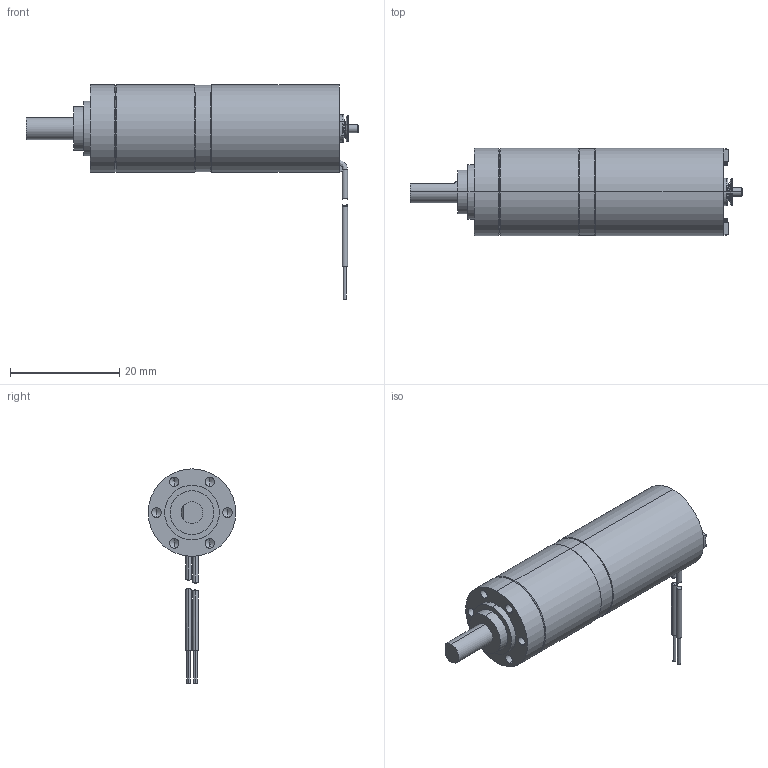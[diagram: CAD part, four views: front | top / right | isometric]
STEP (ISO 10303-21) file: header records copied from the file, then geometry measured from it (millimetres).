
FILE_DESCRIPTION (( 'STEP AP214' ), '1' );
FILE_NAME ('DCX16SG + GP16C-2 étages.STEP', '2014-10-15T13:27:21', ( '' ), ( '' ), 'SwSTEP 2.0', 'SolidWorks 2013', '' );
FILE_SCHEMA (( 'AUTOMOTIVE_DESIGN' ));
Length unit declared in the file: millimetre
Products named in the file (23): 8; 7; 3; 19; 18; 17; 16; 14; 5; 4; 13; 12; GP16C - 2st; 11; DCX16SG; 10; 6; 15; DCX16SG + GP16C-2 étages; 1; 2; 9; 1577440
Assembly tree (22 placements, depth 3):
  DCX16SG + GP16C-2 étages
    DCX16SG
      10
      11
      12
      13
      4
      5
      14
      16
      17
      18
      19
      3
      7
      8
      1577440
      9
      2
      1
      15
      6
    GP16C - 2st
Bounding box: 60.75 x 16 x 39.2 mm (x, y, z)
Volume: 7934 mm3; surface area: 5994.5 mm2
Topology: 21 solids, 21 shells, 1044 faces, 2605 edges, 1657 vertices
Faces by surface type: plane 525, cylinder 297, cone 152, bspline 70
Entity records: 44613 total; most frequent: CARTESIAN_POINT 7607, DIRECTION 5287, ORIENTED_EDGE 5176, EDGE_CURVE 2588, AXIS2_PLACEMENT_3D 1797, LINE 1693, VECTOR 1693, VERTEX_POINT 1657
